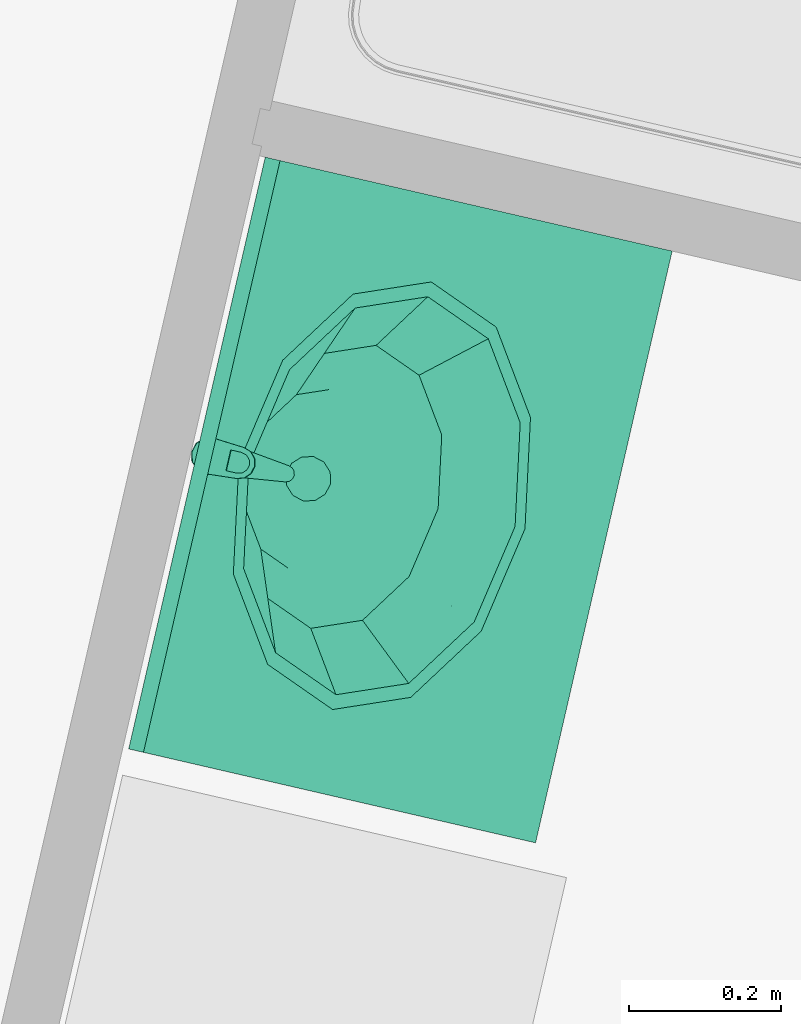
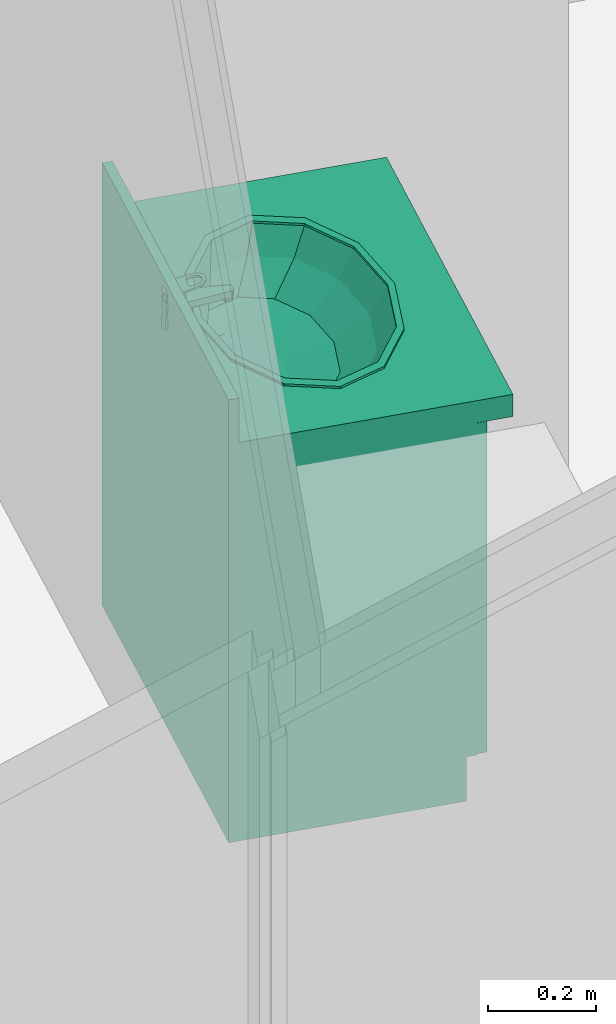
# One storey, part 92 of 119: 1 flow terminal.
"""IFC2X3 building model written with IfcOpenShell, lengths in metres."""

from ifc_helpers import new_model, entity, si_unit, converted_unit, derived_unit, money_unit, direction, frame, origin_with_axes, place, context, subcontext, project, spatial, open_shell, faceted_brep, surface_model, source, transform, mapped, type_object, element, save


model = new_model("IFC2X3")

# Units and contexts
model_context = context("Model", 3, precision=1e-05, world=origin_with_axes(), true_north=direction((0.0, 1.0)))
body_context = subcontext(model_context, "Body", "Model", "MODEL_VIEW")
ifc_project = project(units=[si_unit("LENGTHUNIT", "METRE"), si_unit("AREAUNIT", "SQUARE_METRE"), si_unit("VOLUMEUNIT", "CUBIC_METRE"), converted_unit("PLANEANGLEUNIT", "DEGREE", entity("IfcPlaneAngleMeasure", 0.0174532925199), si_unit("PLANEANGLEUNIT", "RADIAN"), dimensions=[0, 0, 0, 0, 0, 0, 0]), si_unit("SOLIDANGLEUNIT", "STERADIAN"), money_unit("EUR"), converted_unit("TIMEUNIT", "Year", entity("IfcTimeMeasure", 31556926.0), si_unit("TIMEUNIT", "SECOND"), dimensions=[0, 0, 1, 0, 0, 0, 0]), si_unit("MASSUNIT", "GRAM", prefix="KILO"), si_unit("THERMODYNAMICTEMPERATUREUNIT", "DEGREE_CELSIUS"), si_unit("LUMINOUSINTENSITYUNIT", "LUMEN"), si_unit("ENERGYUNIT", "JOULE", prefix="MEGA"), derived_unit("THERMALCONDUCTANCEUNIT", [(si_unit("POWERUNIT", "WATT"), 1), (si_unit("LENGTHUNIT", "METRE"), -1), (si_unit("THERMODYNAMICTEMPERATUREUNIT", "KELVIN"), -1)]), derived_unit("SPECIFICHEATCAPACITYUNIT", [(si_unit("ENERGYUNIT", "JOULE"), 1), (si_unit("MASSUNIT", "GRAM", prefix="KILO"), -1), (si_unit("THERMODYNAMICTEMPERATUREUNIT", "KELVIN"), -1)]), derived_unit("MASSDENSITYUNIT", [(si_unit("MASSUNIT", "GRAM", prefix="KILO"), 1), (si_unit("VOLUMEUNIT", "CUBIC_METRE"), -1)])], contexts=[model_context])

# Site, building, storey
site_placement = place(None, origin_with_axes())
site = spatial("IfcSite", under=ifc_project, at=site_placement, Name="Site", CompositionType="ELEMENT")
building_placement = place(site_placement, origin_with_axes())
building = spatial("IfcBuilding", under=site, at=building_placement, Name="Bâtiment", CompositionType="ELEMENT")
storey_placement = place(building_placement, origin_with_axes())
storey = spatial("IfcBuildingStorey", under=building, at=storey_placement, Name="Rez-de-chaussée", CompositionType="ELEMENT", Elevation=0.0)

# Flow terminal
sanitary_terminal_type = type_object("IfcSanitaryTerminalType", Name="Lavabo sur meuble 23", PredefinedType="NOTDEFINED")
shared_shape = source(origin_with_axes(), body_context, "Body", "SurfaceModel", [
    faceted_brep([(0.0, 0.09, 0.0), (0.8, 0.09, 0.0), (0.8, 0.09, 0.1), (0.0, 0.09, 0.1), (0.0, 0.55, 0.0), (0.8, 0.55, 0.0), (0.8, 0.55, 0.1), (0.0, 0.55, 0.1)], [[[0, 1, 2, 3]], [[0, 4, 5, 1]], [[1, 5, 6, 2]], [[3, 2, 6, 7]], [[4, 0, 3, 7]], [[5, 4, 7, 6]]]),
    faceted_brep([(0.0, 0.07, 0.1), (0.02, 0.07, 0.1), (0.02, 0.07, 0.12), (0.0, 0.07, 0.12), (0.0, 0.55, 0.1), (0.02, 0.55, 0.1), (0.78, 0.55, 0.1), (0.8, 0.55, 0.1), (0.8, 0.07, 0.1), (0.78, 0.07, 0.1), (0.78, 0.07, 0.12), (0.8, 0.07, 0.12), (0.8, 0.55, 0.12), (0.78, 0.55, 0.12), (0.02, 0.55, 0.12), (0.0, 0.55, 0.12)], [[[0, 1, 2, 3]], [[0, 4, 5, 6, 7, 8, 9, 1]], [[1, 9, 10, 2]], [[3, 2, 10, 11, 12, 13, 14, 15]], [[4, 0, 3, 15]], [[5, 4, 15, 14]], [[6, 5, 14, 13]], [[7, 6, 13, 12]], [[8, 7, 12, 11]], [[9, 8, 11, 10]]]),
    faceted_brep([(0.0, 0.07, 0.12), (0.02, 0.07, 0.12), (0.02, 0.07, 0.85), (0.0, 0.07, 0.85), (0.0, 0.55, 0.12), (0.8, 0.55, 0.12), (0.8, 0.07, 0.12), (0.78, 0.07, 0.12), (0.78, 0.53, 0.12), (0.02, 0.53, 0.12), (0.02, 0.53, 0.85), (0.78, 0.53, 0.85), (0.78, 0.07, 0.85), (0.8, 0.07, 0.85), (0.8, 0.55, 0.85), (0.0, 0.55, 0.85)], [[[0, 1, 2, 3]], [[0, 4, 5, 6, 7, 8, 9, 1]], [[1, 9, 10, 2]], [[3, 2, 10, 11, 12, 13, 14, 15]], [[4, 0, 3, 15]], [[5, 4, 15, 14]], [[6, 5, 14, 13]], [[7, 6, 13, 12]], [[8, 7, 12, 11]], [[9, 8, 11, 10]]]),
    faceted_brep([(0.78, 0.07, 0.323333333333), (0.78, 0.53, 0.323333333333), (0.78, 0.53, 0.343333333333), (0.78, 0.07, 0.343333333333), (0.02, 0.07, 0.323333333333), (0.02, 0.53, 0.323333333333), (0.02, 0.53, 0.343333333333), (0.02, 0.07, 0.343333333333)], [[[0, 1, 2, 3]], [[0, 4, 5, 1]], [[1, 5, 6, 2]], [[3, 2, 6, 7]], [[4, 0, 3, 7]], [[5, 4, 7, 6]]]),
    faceted_brep([(0.78, 0.07, 0.566666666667), (0.78, 0.53, 0.566666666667), (0.78, 0.53, 0.586666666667), (0.78, 0.07, 0.586666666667), (0.02, 0.07, 0.566666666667), (0.02, 0.53, 0.566666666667), (0.02, 0.53, 0.586666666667), (0.02, 0.07, 0.586666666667)], [[[0, 1, 2, 3]], [[0, 4, 5, 1]], [[1, 5, 6, 2]], [[3, 2, 6, 7]], [[4, 0, 3, 7]], [[5, 4, 7, 6]]]),
    faceted_brep([(0.0, 0.55, 0.85), (0.8, 0.55, 0.85), (0.8, 0.0, 0.85), (0.0, 0.0, 0.85), (0.535, 0.144115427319, 0.85), (0.633826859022, 0.21, 0.85), (0.67, 0.3, 0.85), (0.633826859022, 0.39, 0.85), (0.535, 0.455884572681, 0.85), (0.4, 0.48, 0.85), (0.265, 0.455884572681, 0.85), (0.166173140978, 0.39, 0.85), (0.13, 0.3, 0.85), (0.166173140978, 0.21, 0.85), (0.265, 0.144115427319, 0.85), (0.4, 0.12, 0.85), (0.0, 0.55, 0.9), (0.8, 0.55, 0.9), (0.8, 0.0, 0.9), (0.0, 0.0, 0.9), (0.535, 0.144115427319, 0.9), (0.633826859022, 0.21, 0.9), (0.67, 0.3, 0.9), (0.633826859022, 0.39, 0.9), (0.535, 0.455884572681, 0.9), (0.4, 0.48, 0.9), (0.265, 0.455884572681, 0.9), (0.166173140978, 0.39, 0.9), (0.13, 0.3, 0.9), (0.166173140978, 0.21, 0.9), (0.265, 0.144115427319, 0.9), (0.4, 0.12, 0.9)], [[[0, 1, 2, 3], [4, 5, 6, 7, 8, 9, 10, 11, 12, 13, 14, 15]], [[0, 16, 17, 1]], [[1, 17, 18, 2]], [[2, 18, 19, 3]], [[3, 19, 16, 0]], [[20, 21, 5, 4]], [[21, 22, 6, 5]], [[22, 23, 7, 6]], [[23, 24, 8, 7]], [[24, 25, 9, 8]], [[25, 26, 10, 9]], [[26, 27, 11, 10]], [[27, 28, 12, 11]], [[28, 29, 13, 12]], [[29, 30, 14, 13]], [[30, 31, 15, 14]], [[31, 20, 4, 15]], [[18, 17, 16, 19], [24, 23, 22, 21, 20, 31, 30, 29, 28, 27, 26, 25]]]),
    faceted_brep([(0.0, 0.53, 0.9), (0.8, 0.53, 0.9), (0.8, 0.53, 1.0), (0.0, 0.53, 1.0), (0.0, 0.55, 0.9), (0.8, 0.55, 0.9), (0.8, 0.55, 1.0), (0.0, 0.55, 1.0)], [[[0, 1, 2, 3]], [[0, 4, 5, 1]], [[1, 5, 6, 2]], [[3, 2, 6, 7]], [[4, 0, 3, 7]], [[5, 4, 7, 6]]]),
    faceted_brep([(0.689, 0.3, 0.905), (0.689, 0.3, 0.9), (0.650281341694, 0.396691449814, 0.9), (0.650281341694, 0.396691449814, 0.905), (0.650281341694, 0.203308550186, 0.905), (0.650281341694, 0.203308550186, 0.9), (0.5445, 0.132525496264, 0.9), (0.4, 0.106617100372, 0.9), (0.2555, 0.132525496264, 0.9), (0.149718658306, 0.203308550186, 0.9), (0.111, 0.3, 0.9), (0.149718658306, 0.396691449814, 0.9), (0.2555, 0.467474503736, 0.9), (0.4, 0.493382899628, 0.9), (0.5445, 0.467474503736, 0.9), (0.669, 0.3, 0.9), (0.632960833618, 0.39, 0.9), (0.5345, 0.455884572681, 0.9), (0.4, 0.48, 0.9), (0.2655, 0.455884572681, 0.9), (0.167039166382, 0.39, 0.9), (0.131, 0.3, 0.9), (0.167039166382, 0.21, 0.9), (0.2655, 0.144115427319, 0.9), (0.4, 0.12, 0.9), (0.5345, 0.144115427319, 0.9), (0.632960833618, 0.21, 0.9), (0.5445, 0.467474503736, 0.905), (0.4, 0.493382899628, 0.905), (0.2555, 0.467474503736, 0.905), (0.149718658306, 0.396691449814, 0.905), (0.111, 0.3, 0.905), (0.149718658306, 0.203308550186, 0.905), (0.2555, 0.132525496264, 0.905), (0.4, 0.106617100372, 0.905), (0.5445, 0.132525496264, 0.905), (0.669, 0.3, 0.905), (0.632960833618, 0.21, 0.905), (0.5345, 0.144115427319, 0.905), (0.4, 0.12, 0.905), (0.2655, 0.144115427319, 0.905), (0.167039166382, 0.21, 0.905), (0.131, 0.3, 0.905), (0.167039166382, 0.39, 0.905), (0.2655, 0.455884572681, 0.905), (0.4, 0.48, 0.905), (0.5345, 0.455884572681, 0.905), (0.632960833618, 0.39, 0.905)], [[[0, 1, 2, 3]], [[4, 5, 1, 0]], [[1, 5, 6, 7, 8, 9, 10, 11, 12, 13, 14, 2], [15, 16, 17, 18, 19, 20, 21, 22, 23, 24, 25, 26]], [[3, 2, 14, 27]], [[0, 3, 27, 28, 29, 30, 31, 32, 33, 34, 35, 4], [36, 37, 38, 39, 40, 41, 42, 43, 44, 45, 46, 47]], [[35, 6, 5, 4]], [[34, 7, 6, 35]], [[33, 8, 7, 34]], [[32, 9, 8, 33]], [[31, 10, 9, 32]], [[30, 11, 10, 31]], [[29, 12, 11, 30]], [[28, 13, 12, 29]], [[27, 14, 13, 28]], [[47, 16, 15, 36]], [[46, 17, 16, 47]], [[45, 18, 17, 46]], [[44, 19, 18, 45]], [[43, 20, 19, 44]], [[42, 21, 20, 43]], [[41, 22, 21, 42]], [[40, 23, 22, 41]], [[39, 24, 23, 40]], [[38, 25, 24, 39]], [[37, 26, 25, 38]], [[36, 15, 26, 37]]]),
    surface_model("IfcShellBasedSurfaceModel", [(0.4, 0.48, 0.9), (0.4, 0.48, 0.848), (0.52105, 0.458296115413, 0.848), (0.5345, 0.455884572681, 0.9), (0.2655, 0.455884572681, 0.9), (0.27895, 0.458296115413, 0.848), (0.609664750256, 0.399, 0.848), (0.632960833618, 0.39, 0.9), (0.167039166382, 0.39, 0.9), (0.190335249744, 0.399, 0.848), (0.6421, 0.318, 0.848), (0.669, 0.3, 0.9), (0.131, 0.3, 0.9), (0.1579, 0.318, 0.848), (0.609664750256, 0.237, 0.848), (0.632960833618, 0.21, 0.9), (0.167039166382, 0.21, 0.9), (0.190335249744, 0.237, 0.848), (0.52105, 0.177703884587, 0.848), (0.5345, 0.144115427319, 0.9), (0.2655, 0.144115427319, 0.9), (0.27895, 0.177703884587, 0.848), (0.4, 0.156, 0.848), (0.4, 0.12, 0.9)], [open_shell([[[0, 1, 2, 3]], [[4, 5, 1, 0]], [[3, 2, 6, 7]], [[8, 9, 5, 4]], [[7, 6, 10, 11]], [[12, 13, 9, 8]], [[11, 10, 14, 15]], [[16, 17, 13, 12]], [[15, 14, 18, 19]], [[20, 21, 17, 16]], [[19, 18, 22, 23]], [[23, 22, 21, 20]]])]),
    surface_model("IfcShellBasedSurfaceModel", [(0.4, 0.48, 0.848), (0.4, 0.48, 0.796), (0.4956295, 0.462853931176, 0.796), (0.52105, 0.458296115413, 0.848), (0.27895, 0.458296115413, 0.848), (0.3043705, 0.462853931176, 0.796), (0.565635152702, 0.41601, 0.796), (0.609664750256, 0.399, 0.848), (0.190335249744, 0.399, 0.848), (0.234364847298, 0.41601, 0.796), (0.591259, 0.35202, 0.796), (0.6421, 0.318, 0.848), (0.1579, 0.318, 0.848), (0.208741, 0.35202, 0.796), (0.565635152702, 0.28803, 0.796), (0.609664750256, 0.237, 0.848), (0.190335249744, 0.237, 0.848), (0.234364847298, 0.28803, 0.796), (0.4956295, 0.241186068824, 0.796), (0.52105, 0.177703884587, 0.848), (0.27895, 0.177703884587, 0.848), (0.3043705, 0.241186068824, 0.796), (0.4, 0.22404, 0.796), (0.4, 0.156, 0.848)], [open_shell([[[0, 1, 2, 3]], [[4, 5, 1, 0]], [[3, 2, 6, 7]], [[8, 9, 5, 4]], [[7, 6, 10, 11]], [[12, 13, 9, 8]], [[11, 10, 14, 15]], [[16, 17, 13, 12]], [[15, 14, 18, 19]], [[20, 21, 17, 16]], [[19, 18, 22, 23]], [[23, 22, 21, 20]]])]),
    surface_model("IfcShellBasedSurfaceModel", [(0.4, 0.48, 0.796), (0.4, 0.48, 0.77), (0.460246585, 0.469197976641, 0.77), (0.4956295, 0.462853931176, 0.796), (0.3043705, 0.462853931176, 0.796), (0.339753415, 0.469197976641, 0.77), (0.504350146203, 0.4396863, 0.77), (0.565635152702, 0.41601, 0.796), (0.234364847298, 0.41601, 0.796), (0.295649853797, 0.4396863, 0.77), (0.52049317, 0.3993726, 0.77), (0.591259, 0.35202, 0.796), (0.208741, 0.35202, 0.796), (0.27950683, 0.3993726, 0.77), (0.504350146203, 0.3590589, 0.77), (0.565635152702, 0.28803, 0.796), (0.234364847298, 0.28803, 0.796), (0.295649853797, 0.3590589, 0.77), (0.460246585, 0.329547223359, 0.77), (0.4956295, 0.241186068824, 0.796), (0.3043705, 0.241186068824, 0.796), (0.339753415, 0.329547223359, 0.77), (0.4, 0.3187452, 0.77), (0.4, 0.22404, 0.796)], [open_shell([[[0, 1, 2, 3]], [[4, 5, 1, 0]], [[3, 2, 6, 7]], [[8, 9, 5, 4]], [[7, 6, 10, 11]], [[12, 13, 9, 8]], [[11, 10, 14, 15]], [[16, 17, 13, 12]], [[15, 14, 18, 19]], [[20, 21, 17, 16]], [[19, 18, 22, 23]], [[23, 22, 21, 20]]])]),
    surface_model("IfcShellBasedSurfaceModel", [(0.4, 0.48, 0.77), (0.415, 0.425353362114, 0.763), (0.460246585, 0.469197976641, 0.77), (0.4, 0.4293726, 0.763), (0.425980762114, 0.4143726, 0.763), (0.339753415, 0.469197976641, 0.77), (0.504350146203, 0.4396863, 0.77), (0.385, 0.425353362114, 0.763), (0.43, 0.3993726, 0.763), (0.295649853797, 0.4396863, 0.77), (0.52049317, 0.3993726, 0.77), (0.374019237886, 0.4143726, 0.763), (0.425980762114, 0.3843726, 0.763), (0.27950683, 0.3993726, 0.77), (0.504350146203, 0.3590589, 0.77), (0.37, 0.3993726, 0.763), (0.415, 0.373391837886, 0.763), (0.295649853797, 0.3590589, 0.77), (0.460246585, 0.329547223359, 0.77), (0.374019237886, 0.3843726, 0.763), (0.4, 0.3693726, 0.763), (0.339753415, 0.329547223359, 0.77), (0.4, 0.3187452, 0.77), (0.385, 0.373391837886, 0.763)], [open_shell([[[0, 1, 2]], [[0, 3, 1]], [[2, 1, 4]], [[5, 3, 0]], [[2, 4, 6]], [[5, 7, 3]], [[6, 4, 8]], [[9, 7, 5]], [[6, 8, 10]], [[9, 11, 7]], [[10, 8, 12]], [[13, 11, 9]], [[10, 12, 14]], [[13, 15, 11]], [[14, 12, 16]], [[17, 15, 13]], [[14, 16, 18]], [[17, 19, 15]], [[18, 16, 20]], [[21, 19, 17]], [[18, 20, 22]], [[21, 23, 19]], [[22, 20, 23]], [[22, 23, 21]]])]),
    surface_model("IfcShellBasedSurfaceModel", [(0.43, 0.3993726, 0.763), (0.43, 0.3993726, 0.758), (0.425980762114, 0.4143726, 0.758), (0.425980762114, 0.4143726, 0.763), (0.425980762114, 0.3843726, 0.763), (0.425980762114, 0.3843726, 0.758), (0.415, 0.373391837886, 0.758), (0.4, 0.3693726, 0.758), (0.385, 0.373391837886, 0.758), (0.374019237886, 0.3843726, 0.758), (0.37, 0.3993726, 0.758), (0.374019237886, 0.4143726, 0.758), (0.385, 0.425353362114, 0.758), (0.4, 0.4293726, 0.758), (0.415, 0.425353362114, 0.758), (0.415, 0.425353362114, 0.763), (0.415, 0.373391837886, 0.763), (0.4, 0.3693726, 0.763), (0.385, 0.373391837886, 0.763), (0.374019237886, 0.3843726, 0.763), (0.37, 0.3993726, 0.763), (0.374019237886, 0.4143726, 0.763), (0.385, 0.425353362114, 0.763), (0.4, 0.4293726, 0.763)], [open_shell([[[0, 1, 2, 3]], [[4, 5, 1, 0]], [[1, 5, 6, 7, 8, 9, 10, 11, 12, 13, 14, 2]], [[3, 2, 14, 15]], [[16, 6, 5, 4]], [[17, 7, 6, 16]], [[18, 8, 7, 17]], [[19, 9, 8, 18]], [[20, 10, 9, 19]], [[21, 11, 10, 20]], [[22, 12, 11, 21]], [[23, 13, 12, 22]], [[15, 14, 13, 23]]])]),
    faceted_brep([(0.4125, 0.554150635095, 0.9), (0.4, 0.5575, 0.9), (0.4, 0.553701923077, 0.975961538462), (0.410587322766, 0.550837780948, 0.976507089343), (0.421650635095, 0.545, 0.9), (0.425, 0.5325, 0.9), (0.421650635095, 0.52, 0.9), (0.4125, 0.510849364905, 0.9), (0.4, 0.5075, 0.9), (0.3875, 0.510849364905, 0.9), (0.378349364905, 0.52, 0.9), (0.375, 0.5325, 0.9), (0.378349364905, 0.545, 0.9), (0.3875, 0.554150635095, 0.9), (0.389412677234, 0.550837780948, 0.976507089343), (0.381726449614, 0.543050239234, 0.977990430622), (0.379, 0.5325, 0.98), (0.381899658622, 0.522049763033, 0.981990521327), (0.389585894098, 0.514462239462, 0.983435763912), (0.4, 0.511698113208, 0.983962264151), (0.410414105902, 0.514462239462, 0.983435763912), (0.418100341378, 0.522049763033, 0.981990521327), (0.421, 0.5325, 0.98), (0.418273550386, 0.543050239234, 0.977990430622)], [[[0, 1, 2, 3]], [[0, 4, 5, 6, 7, 8, 9, 10, 11, 12, 13, 1]], [[1, 13, 14, 2]], [[3, 2, 14, 15, 16, 17, 18, 19, 20, 21, 22, 23]], [[4, 0, 3, 23]], [[5, 4, 23, 22]], [[6, 5, 22, 21]], [[7, 6, 21, 20]], [[8, 7, 20, 19]], [[9, 8, 19, 18]], [[10, 9, 18, 17]], [[11, 10, 17, 16]], [[12, 11, 16, 15]], [[13, 12, 15, 14]]]),
    faceted_brep([(0.409, 0.4295, 0.935), (0.407794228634, 0.434, 0.935), (0.407794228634, 0.434, 0.945), (0.409, 0.4295, 0.945), (0.407794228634, 0.425, 0.935), (0.4045, 0.421705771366, 0.935), (0.4, 0.4205, 0.935), (0.3955, 0.421705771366, 0.935), (0.392205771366, 0.425, 0.935), (0.391, 0.4295, 0.935), (0.392205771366, 0.434, 0.935), (0.3955, 0.437294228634, 0.935), (0.4, 0.4385, 0.935), (0.4045, 0.437294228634, 0.935), (0.4045, 0.437294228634, 0.945), (0.4, 0.4385, 0.945), (0.3955, 0.437294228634, 0.945), (0.392205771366, 0.434, 0.945), (0.391, 0.4295, 0.945), (0.392205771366, 0.425, 0.945), (0.3955, 0.421705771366, 0.945), (0.4, 0.4205, 0.945), (0.4045, 0.421705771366, 0.945), (0.407794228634, 0.425, 0.945)], [[[0, 1, 2, 3]], [[0, 4, 5, 6, 7, 8, 9, 10, 11, 12, 13, 1]], [[1, 13, 14, 2]], [[3, 2, 14, 15, 16, 17, 18, 19, 20, 21, 22, 23]], [[4, 0, 3, 23]], [[5, 4, 23, 22]], [[6, 5, 22, 21]], [[7, 6, 21, 20]], [[8, 7, 20, 19]], [[9, 8, 19, 18]], [[10, 9, 18, 17]], [[11, 10, 17, 16]], [[12, 11, 16, 15]], [[13, 12, 15, 14]]]),
    faceted_brep([(0.387128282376, 0.552756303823, 0.96), (0.378272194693, 0.54269320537, 0.96), (0.3761946, 0.5294501, 0.96), (0.389088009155, 0.428111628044, 0.96), (0.390971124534, 0.423216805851, 0.96), (0.394906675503, 0.419750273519, 0.96), (0.400000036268, 0.41850003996, 0.96), (0.405093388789, 0.419750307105, 0.96), (0.409028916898, 0.423216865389, 0.96), (0.410912, 0.4281117, 0.96), (0.423805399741, 0.529450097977, 0.96), (0.421727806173, 0.542693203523, 0.96), (0.412871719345, 0.552756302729, 0.96), (0.40000000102, 0.556499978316, 0.96), (0.411, 0.551552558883, 0.96), (0.419052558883, 0.5435, 0.96), (0.422, 0.5325, 0.96), (0.419052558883, 0.5215, 0.96), (0.411, 0.513447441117, 0.96), (0.4, 0.5105, 0.96), (0.389, 0.513447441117, 0.96), (0.380947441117, 0.5215, 0.96), (0.378, 0.5325, 0.96), (0.380947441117, 0.5435, 0.96), (0.389, 0.551552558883, 0.96), (0.4, 0.5545, 0.96), (0.378272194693, 0.54269320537, 0.945), (0.387128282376, 0.552756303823, 0.945), (0.3761946, 0.5294501, 0.945), (0.389088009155, 0.428111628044, 0.945), (0.390971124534, 0.423216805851, 0.945), (0.394906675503, 0.419750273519, 0.945), (0.400000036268, 0.41850003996, 0.945), (0.405093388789, 0.419750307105, 0.945), (0.409028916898, 0.423216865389, 0.945), (0.410912, 0.4281117, 0.945), (0.423805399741, 0.529450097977, 0.945), (0.421727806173, 0.542693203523, 0.945), (0.412871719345, 0.552756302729, 0.945), (0.40000000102, 0.556499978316, 0.945), (0.411375, 0.552202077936, 0.945), (0.419702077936, 0.543875, 0.945), (0.42275, 0.5325, 0.945), (0.419702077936, 0.521125, 0.945), (0.411375, 0.512797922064, 0.945), (0.4, 0.50975, 0.945), (0.388625, 0.512797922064, 0.945), (0.380297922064, 0.521125, 0.945), (0.37725, 0.5325, 0.945), (0.380297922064, 0.543875, 0.945), (0.388625, 0.552202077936, 0.945), (0.4, 0.55525, 0.945)], [[[0, 1, 2, 3, 4, 5, 6, 7, 8, 9, 10, 11, 12, 13], [14, 15, 16, 17, 18, 19, 20, 21, 22, 23, 24, 25]], [[26, 1, 0, 27]], [[28, 2, 1, 26]], [[29, 3, 2, 28]], [[30, 4, 3, 29]], [[31, 5, 4, 30]], [[32, 6, 5, 31]], [[33, 7, 6, 32]], [[34, 8, 7, 33]], [[35, 9, 8, 34]], [[36, 10, 9, 35]], [[37, 11, 10, 36]], [[38, 12, 11, 37]], [[39, 13, 12, 38]], [[27, 0, 13, 39]], [[40, 41, 15, 14]], [[41, 42, 16, 15]], [[42, 43, 17, 16]], [[43, 44, 18, 17]], [[44, 45, 19, 18]], [[20, 19, 45, 46]], [[21, 20, 46, 47]], [[22, 21, 47, 48]], [[23, 22, 48, 49]], [[24, 23, 49, 50]], [[50, 51, 25, 24]], [[51, 40, 14, 25]], [[32, 31, 30, 29, 28, 26, 27, 39, 38, 37, 36, 35, 34, 33], [44, 43, 42, 41, 40, 51, 50, 49, 48, 47, 46, 45]]]),
    faceted_brep([(0.423893, 0.53080743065, 0.980322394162), (0.421296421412, 0.543274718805, 0.977947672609), (0.421296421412, 0.544023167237, 0.981877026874), (0.423893, 0.531555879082, 0.984251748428), (0.420945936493, 0.490663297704, 0.987968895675), (0.417663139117, 0.480985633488, 0.989812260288), (0.410061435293, 0.474036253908, 0.991135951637), (0.399999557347, 0.47151438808, 0.991616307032), (0.389937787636, 0.474036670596, 0.991135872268), (0.382336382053, 0.480986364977, 0.989812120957), (0.379054, 0.490664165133, 0.987968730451), (0.376106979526, 0.530807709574, 0.980322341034), (0.378703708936, 0.543274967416, 0.977947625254), (0.38752831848, 0.552591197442, 0.976173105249), (0.400000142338, 0.556031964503, 0.975517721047), (0.41247192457, 0.552591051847, 0.976173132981), (0.414, 0.506959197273, 0.984864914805), (0.386, 0.506959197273, 0.984864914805), (0.386, 0.492143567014, 0.987686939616), (0.387875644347, 0.485267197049, 0.988996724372), (0.393, 0.480233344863, 0.989955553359), (0.4, 0.478390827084, 0.990306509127), (0.407, 0.480233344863, 0.989955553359), (0.412124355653, 0.485267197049, 0.988996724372), (0.414, 0.492143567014, 0.987686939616), (0.41247192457, 0.553339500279, 0.980102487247), (0.400000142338, 0.556780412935, 0.979447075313), (0.38752831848, 0.553339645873, 0.980102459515), (0.378703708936, 0.544023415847, 0.98187697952), (0.376106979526, 0.531556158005, 0.984251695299), (0.379054, 0.491412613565, 0.991898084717), (0.382336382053, 0.481734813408, 0.993741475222), (0.389937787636, 0.474785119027, 0.995065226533), (0.399999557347, 0.472262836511, 0.995545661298), (0.410061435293, 0.47478470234, 0.995065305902), (0.417663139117, 0.48173408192, 0.993741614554), (0.420945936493, 0.491411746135, 0.991898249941), (0.414, 0.507707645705, 0.988794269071), (0.414, 0.492892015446, 0.991616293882), (0.412124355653, 0.486015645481, 0.992926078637), (0.407, 0.480981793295, 0.993884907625), (0.4, 0.479139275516, 0.994235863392), (0.393, 0.480981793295, 0.993884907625), (0.387875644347, 0.486015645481, 0.992926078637), (0.386, 0.492892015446, 0.991616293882), (0.386, 0.507707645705, 0.988794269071)], [[[0, 1, 2, 3]], [[0, 4, 5, 6, 7, 8, 9, 10, 11, 12, 13, 14, 15, 1], [16, 17, 18, 19, 20, 21, 22, 23, 24]], [[1, 15, 25, 2]], [[3, 2, 25, 26, 27, 28, 29, 30, 31, 32, 33, 34, 35, 36], [37, 38, 39, 40, 41, 42, 43, 44, 45]], [[4, 0, 3, 36]], [[5, 4, 36, 35]], [[6, 5, 35, 34]], [[7, 6, 34, 33]], [[8, 7, 33, 32]], [[9, 8, 32, 31]], [[10, 9, 31, 30]], [[11, 10, 30, 29]], [[12, 11, 29, 28]], [[13, 12, 28, 27]], [[14, 13, 27, 26]], [[15, 14, 26, 25]], [[17, 16, 37, 45]], [[18, 17, 45, 44]], [[19, 18, 44, 43]], [[20, 19, 43, 42]], [[21, 20, 42, 41]], [[22, 21, 41, 40]], [[23, 22, 40, 39]], [[24, 23, 39, 38]], [[16, 24, 38, 37]]]),
    faceted_brep([(0.0015, 0.07, 0.1015), (0.3985, 0.07, 0.1015), (0.3985, 0.05, 0.1015), (0.0015, 0.05, 0.1015), (0.0015, 0.07, 0.8485), (0.3985, 0.07, 0.8485), (0.3985, 0.05, 0.8485), (0.0015, 0.05, 0.8485)], [[[0, 1, 2, 3]], [[0, 4, 5, 1]], [[1, 5, 6, 2]], [[3, 2, 6, 7]], [[4, 0, 3, 7]], [[5, 4, 7, 6]]]),
    faceted_brep([(0.358892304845, 0.05, 0.7855), (0.3545, 0.05, 0.781107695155), (0.3485, 0.05, 0.7795), (0.3425, 0.05, 0.781107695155), (0.338107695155, 0.05, 0.7855), (0.3365, 0.05, 0.7915), (0.338107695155, 0.05, 0.7975), (0.3425, 0.05, 0.801892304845), (0.3485, 0.05, 0.8035), (0.3545, 0.05, 0.801892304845), (0.358892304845, 0.05, 0.7975), (0.3605, 0.05, 0.7915), (0.358892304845, 0.025, 0.7855), (0.3545, 0.025, 0.781107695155), (0.3485, 0.025, 0.7795), (0.3425, 0.025, 0.781107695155), (0.338107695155, 0.025, 0.7855), (0.3365, 0.025, 0.7915), (0.338107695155, 0.025, 0.7975), (0.3425, 0.025, 0.801892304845), (0.3485, 0.025, 0.8035), (0.3545, 0.025, 0.801892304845), (0.358892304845, 0.025, 0.7975), (0.3605, 0.025, 0.7915)], [[[0, 1, 2, 3, 4, 5, 6, 7, 8, 9, 10, 11]], [[1, 0, 12, 13]], [[2, 1, 13, 14]], [[3, 2, 14, 15]], [[4, 3, 15, 16]], [[5, 4, 16, 17]], [[6, 5, 17, 18]], [[7, 6, 18, 19]], [[8, 7, 19, 20]], [[9, 8, 20, 21]], [[10, 9, 21, 22]], [[11, 10, 22, 23]], [[0, 11, 23, 12]], [[12, 23, 22, 21, 20, 19, 18, 17, 16, 15, 14, 13]]]),
    faceted_brep([(0.7985, 0.07, 0.1015), (0.7985, 0.05, 0.1015), (0.4015, 0.05, 0.1015), (0.4015, 0.07, 0.1015), (0.7985, 0.07, 0.8485), (0.7985, 0.05, 0.8485), (0.4015, 0.05, 0.8485), (0.4015, 0.07, 0.8485)], [[[0, 1, 2, 3]], [[4, 5, 1, 0]], [[1, 5, 6, 2]], [[3, 2, 6, 7]], [[0, 3, 7, 4]], [[7, 6, 5, 4]]]),
    faceted_brep([(0.441107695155, 0.05, 0.7855), (0.4395, 0.05, 0.7915), (0.441107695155, 0.05, 0.7975), (0.4455, 0.05, 0.801892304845), (0.4515, 0.05, 0.8035), (0.4575, 0.05, 0.801892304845), (0.461892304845, 0.05, 0.7975), (0.4635, 0.05, 0.7915), (0.461892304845, 0.05, 0.7855), (0.4575, 0.05, 0.781107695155), (0.4515, 0.05, 0.7795), (0.4455, 0.05, 0.781107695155), (0.441107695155, 0.025, 0.7855), (0.4395, 0.025, 0.7915), (0.441107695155, 0.025, 0.7975), (0.4455, 0.025, 0.801892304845), (0.4515, 0.025, 0.8035), (0.4575, 0.025, 0.801892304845), (0.461892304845, 0.025, 0.7975), (0.4635, 0.025, 0.7915), (0.461892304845, 0.025, 0.7855), (0.4575, 0.025, 0.781107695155), (0.4515, 0.025, 0.7795), (0.4455, 0.025, 0.781107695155)], [[[0, 1, 2, 3, 4, 5, 6, 7, 8, 9, 10, 11]], [[0, 12, 13, 1]], [[1, 13, 14, 2]], [[2, 14, 15, 3]], [[3, 15, 16, 4]], [[4, 16, 17, 5]], [[5, 17, 18, 6]], [[6, 18, 19, 7]], [[7, 19, 20, 8]], [[8, 20, 21, 9]], [[9, 21, 22, 10]], [[10, 22, 23, 11]], [[11, 23, 12, 0]], [[12, 23, 22, 21, 20, 19, 18, 17, 16, 15, 14, 13]]]),
])
flow_terminal_placement = place(storey_placement, frame((-14.8850742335, -9.44738149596, 0.0), z_axis=(0.0, 0.0, 1.0), x_axis=(0.224876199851, 0.974387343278, 0.0)))
element("IfcFlowTerminal", 1, at=flow_terminal_placement, inside=storey, type_object=sanitary_terminal_type, Name="MOB-002", ObjectType="SANITARY_TERMINAL", context=body_context, shape_type="MappedRepresentation", body=[
    mapped(shared_shape, transform((0.0, 0.0, 0.0))),
])

save(model, "model.ifc")
